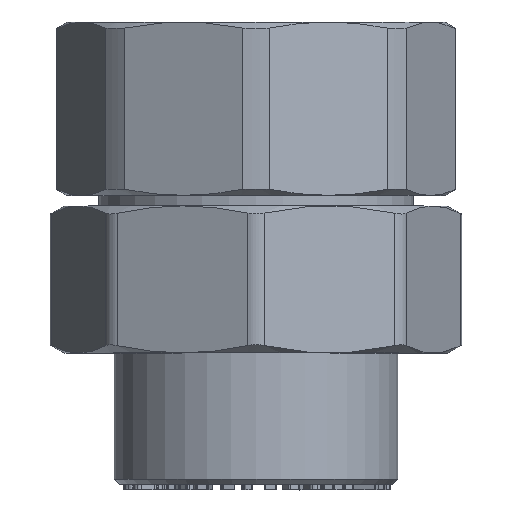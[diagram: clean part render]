
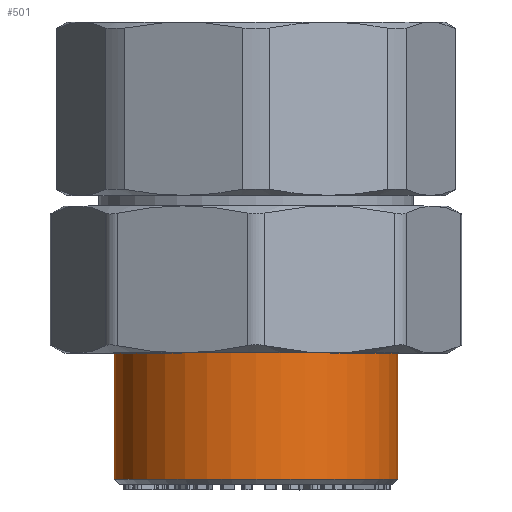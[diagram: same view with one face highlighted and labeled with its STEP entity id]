
A CAD part, top view. The second image highlights one B-rep face of the part: STEP entity #501.
In plain terms, the highlighted cylindrical face has radius 13.5 mm (diameter 27 mm), a full revolution.
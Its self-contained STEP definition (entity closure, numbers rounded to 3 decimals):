
#501=ADVANCED_FACE('',(#3742,#3744),#3746,.T.);
#3742=FACE_OUTER_BOUND('',#3743,.T.);
#3743=EDGE_LOOP('',(#8557));
#3744=FACE_OUTER_BOUND('',#3745,.T.);
#3745=EDGE_LOOP('',(#8558));
#3746=CYLINDRICAL_SURFACE('',#3747,13.5);
#3747=AXIS2_PLACEMENT_3D('',#3748,#3749,#3750);
#3748=CARTESIAN_POINT('',(0.,0.,0.));
#3749=DIRECTION('',(0.,1.,0.));
#3750=DIRECTION('',(-1.,0.,0.));
#8557=ORIENTED_EDGE('',*,*,#11899,.F.);
#8558=ORIENTED_EDGE('',*,*,#11011,.T.);
#11011=EDGE_CURVE('',#13428,#13428,#13429,.T.);
#11899=EDGE_CURVE('',#14765,#14765,#14766,.T.);
#13428=VERTEX_POINT('',#17921);
#13429=CIRCLE('',#17922,13.5);
#14765=VERTEX_POINT('',#21331);
#14766=CIRCLE('',#21332,13.5);
#17921=CARTESIAN_POINT('',(-13.5,0.5,0.));
#17922=AXIS2_PLACEMENT_3D('',#17923,#17924,#17925);
#17923=CARTESIAN_POINT('',(0.,0.5,0.));
#17924=DIRECTION('',(0.,1.,0.));
#17925=DIRECTION('',(-1.,0.,0.));
#21331=CARTESIAN_POINT('',(-13.5,14.5,0.));
#21332=AXIS2_PLACEMENT_3D('',#21333,#21334,#21335);
#21333=CARTESIAN_POINT('',(0.,14.5,0.));
#21334=DIRECTION('',(0.,1.,0.));
#21335=DIRECTION('',(-1.,0.,0.));
